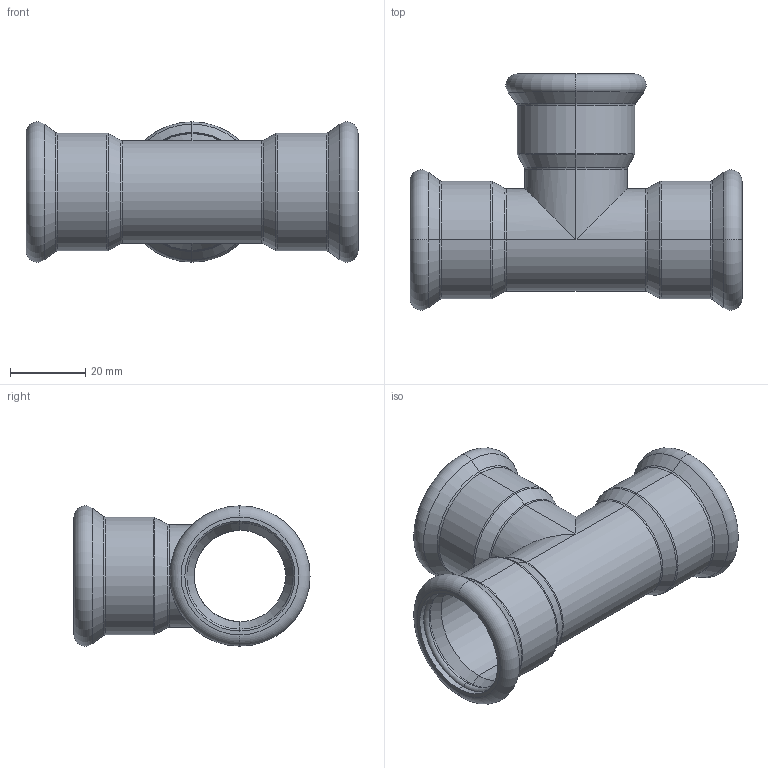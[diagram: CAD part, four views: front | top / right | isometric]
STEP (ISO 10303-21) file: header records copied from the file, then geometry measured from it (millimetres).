
FILE_DESCRIPTION (( 'STEP AP214' ), '1' );
FILE_NAME ('T280000.STEP', '2025-08-17T12:53:22', ( '' ), ( '' ), 'SwSTEP 2.0', 'SolidWorks 2020', '' );
FILE_SCHEMA (( 'AUTOMOTIVE_DESIGN' ));
Length unit declared in the file: millimetre
Products named in the file (1): T280000
Bounding box: 88 x 62.6 x 37.2 mm (x, y, z)
Volume: 17938.2 mm3; surface area: 24969.9 mm2
Topology: 4 solids, 4 shells, 100 faces, 202 edges, 106 vertices
Faces by surface type: torus 42, cylinder 28, cone 24, plane 6
Entity records: 3763 total; most frequent: DIRECTION 544, CARTESIAN_POINT 421, ORIENTED_EDGE 404, AXIS2_PLACEMENT_3D 245, EDGE_CURVE 202, CIRCLE 144, VERTEX_POINT 106, UNCERTAINTY_MEASURE_WITH_UNIT 106
